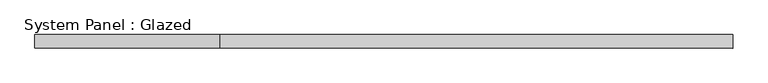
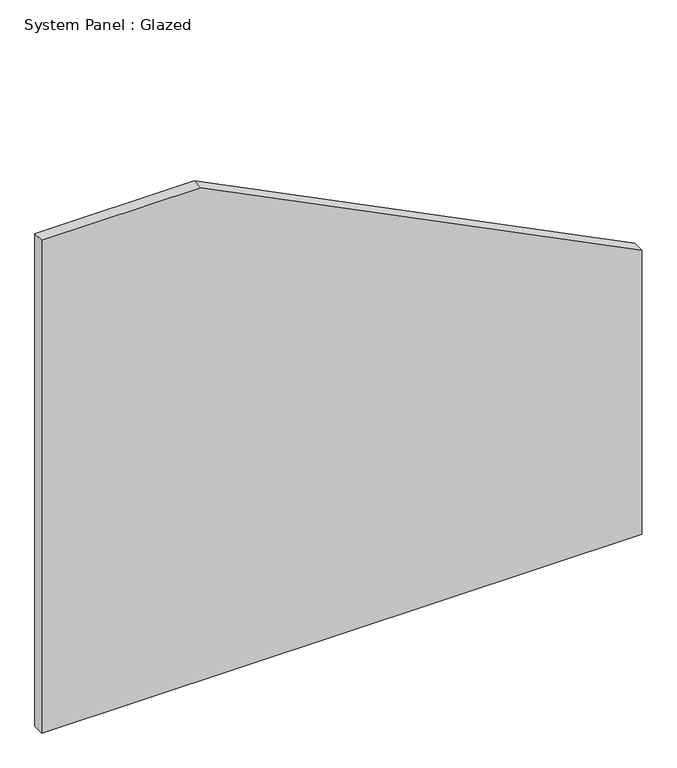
"""IFC4 building model written with IfcOpenShell, lengths in millimetres: plate geometry, System Panel : Glazed."""

import ifcopenshell
import ifcopenshell.guid

model = None  # the IFC model being written
_history = None  # IfcOwnerHistory: only IFC2X3 demands one
_inside = {}  # id of a spatial element -> (the spatial element, [elements in it])
_under = {}  # id of a project, library or spatial element -> (it, [spatial elements below it])
_declared = {}  # id of a project -> (the project, [libraries it declares])
_typed = {}  # id of a type object -> (the type object, [elements of that type])
_made_of = {}  # id of a material, layer set ... -> (it, [elements and type objects made of it])


def new_model(schema):
    """Start an empty IFC model of exactly this schema.

    Asked for "IFC4X3", IfcOpenShell would pick the latest addendum, in which some entities
    have other attributes; the version numbers below select the first issue.
    IFC2X3 requires an IfcOwnerHistory on every rooted entity: one is made here for all.
    """
    global model, _history
    if schema == "IFC4X3":
        model = ifcopenshell.file(schema_version=(4, 3, 0, 0))
    else:
        model = ifcopenshell.file(schema=schema)
    _inside.clear()
    _under.clear()
    _declared.clear()
    _typed.clear()
    _made_of.clear()
    _history = None
    if model.schema == "IFC2X3":
        org = make("IfcOrganization", Name="unknown")
        user = make(
            "IfcPersonAndOrganization",
            ThePerson=make("IfcPerson", FamilyName="unknown"),
            TheOrganization=org,
        )
        app = make(
            "IfcApplication",
            ApplicationDeveloper=org,
            Version="unknown",
            ApplicationFullName="unknown",
            ApplicationIdentifier="unknown",
        )
        _history = make(
            "IfcOwnerHistory",
            OwningUser=user,
            OwningApplication=app,
            ChangeAction="ADDED",
            CreationDate=0,
        )
    return model


def make(cls, **values):
    """One entity of the class cls with the attributes given. An attribute that is None is left unset."""
    return model.create_entity(
        cls, **{name: value for name, value in values.items() if value is not None}
    )


def rooted(cls, **values):
    """An entity with a GlobalId (a new one), such as an element, a storey or a relation."""
    return make(cls, GlobalId=ifcopenshell.guid.new(), OwnerHistory=_history, **values)


def si_unit(unit_type, name, prefix=None):
    """IfcSIUnit, for example si_unit("LENGTHUNIT", "METRE", prefix="MILLI")."""
    return make("IfcSIUnit", UnitType=unit_type, Prefix=prefix, Name=name)


def assignment(units):
    """IfcUnitAssignment: the units of a project."""
    return None if units is None else make("IfcUnitAssignment", Units=units)


def point(xyz):
    """IfcCartesianPoint."""
    return None if xyz is None else make("IfcCartesianPoint", Coordinates=xyz)


def direction(xyz):
    """IfcDirection."""
    return None if xyz is None else make("IfcDirection", DirectionRatios=xyz)


def frame(location, z_axis=None, x_axis=None):
    """IfcAxis2Placement3D, a coordinate frame: its origin and axes. An axis left out is left unset."""
    return make(
        "IfcAxis2Placement3D",
        Location=point(location),
        Axis=direction(z_axis),
        RefDirection=direction(x_axis),
    )


def origin():
    """The frame at (0, 0, 0) with its axes left unset."""
    return frame((0.0, 0.0, 0.0))


def place(relative_to, where):
    """IfcLocalPlacement: puts the frame where relative to a parent placement (None: the world)."""
    return make(
        "IfcLocalPlacement", PlacementRelTo=relative_to, RelativePlacement=where
    )


def context(
    kind, dimensions, precision=None, world=None, true_north=None, identifier=None
):
    """IfcGeometricRepresentationContext, for example the 3D "Model" context."""
    return make(
        "IfcGeometricRepresentationContext",
        ContextIdentifier=identifier,
        ContextType=kind,
        CoordinateSpaceDimension=dimensions,
        Precision=precision,
        WorldCoordinateSystem=world,
        TrueNorth=true_north,
    )


def project(units=None, contexts=None):
    """IfcProject with its units and contexts."""
    return rooted(
        "IfcProject",
        Name="project",
        RepresentationContexts=contexts,
        UnitsInContext=assignment(units),
    )


def spatial(cls, under=None, at=None, **own):
    """A site, building, storey or space (cls), placed at a placement, below another one or the project."""
    s = rooted(cls, ObjectPlacement=at, **own)
    if under is not None:
        _under.setdefault(under.id(), (under, []))[1].append(s)
    return s


def polyline(points):
    """IfcPolyline through the points."""
    return make("IfcPolyline", Points=[point(p) for p in points])


def outline(outer, holes=None, kind="AREA"):
    """IfcArbitraryClosedProfileDef: a profile drawn as a closed curve; with holes, ...WithVoids."""
    if holes is None:
        return make("IfcArbitraryClosedProfileDef", ProfileType=kind, OuterCurve=outer)
    return make(
        "IfcArbitraryProfileDefWithVoids",
        ProfileType=kind,
        OuterCurve=outer,
        InnerCurves=holes,
    )


def extrude(swept, where, along, depth):
    """IfcExtrudedAreaSolid: the profile swept, set in the frame where, extruded along a direction by depth."""
    return make(
        "IfcExtrudedAreaSolid",
        SweptArea=swept,
        Position=where,
        ExtrudedDirection=direction(along),
        Depth=depth,
    )


def shape(context_of_items, identifier, shape_type, items):
    """IfcShapeRepresentation: the items that make up one representation, for example the "Body"."""
    return make(
        "IfcShapeRepresentation",
        ContextOfItems=context_of_items,
        RepresentationIdentifier=identifier,
        RepresentationType=shape_type,
        Items=items,
    )


def source(mapping_origin, context_of_items, identifier, shape_type, items):
    """IfcRepresentationMap: a shape defined once, which mapped items show again and again."""
    return make(
        "IfcRepresentationMap",
        MappingOrigin=mapping_origin,
        MappedRepresentation=shape(context_of_items, identifier, shape_type, items),
    )


def transform(
    local_origin,
    x_axis=None,
    y_axis=None,
    z_axis=None,
    scale=None,
    scale2=None,
    scale3=None,
    uniform=True,
):
    """IfcCartesianTransformationOperator3D, or its non-uniform kind. x_axis, y_axis, z_axis: its Axis1, 2, 3."""
    if uniform:
        return make(
            "IfcCartesianTransformationOperator3D",
            Axis1=direction(x_axis),
            Axis2=direction(y_axis),
            LocalOrigin=point(local_origin),
            Scale=scale,
            Axis3=direction(z_axis),
        )
    return make(
        "IfcCartesianTransformationOperator3DnonUniform",
        Axis1=direction(x_axis),
        Axis2=direction(y_axis),
        LocalOrigin=point(local_origin),
        Scale=scale,
        Axis3=direction(z_axis),
        Scale2=scale2,
        Scale3=scale3,
    )


def mapped(mapping_source, mapping_target):
    """IfcMappedItem: shows the shape of a source again, moved by a transform."""
    return make(
        "IfcMappedItem", MappingSource=mapping_source, MappingTarget=mapping_target
    )


def made_of(thing, what):
    """Note that an element or type object is made of a material, layer set ...; save() writes the relation."""
    if what is not None:
        _made_of.setdefault(what.id(), (what, []))[1].append(thing)
    return thing


def element(
    cls,
    number,
    at=None,
    inside=None,
    cuts=None,
    type_object=None,
    material=None,
    context=None,
    identifier="Body",
    shape_type=None,
    held_by="IfcProductDefinitionShape",
    body=None,
    shapes=None,
    **own,
):
    """One element of the class cls, such as IfcWall. Its Tag is "e" and its number.

    at: its placement. inside: the storey or other place that contains it. cuts: it is an
    opening in that element (IfcRelVoidsElement). A single representation is given by context,
    identifier, shape_type and body (its items); several are given by shapes. held_by: the class
    of the entity that holds the representations. save() writes the other relations.
    """
    e = rooted(cls, Tag="e%d" % number, ObjectPlacement=at, **own)
    if body is not None:
        shapes = [shape(context, identifier, shape_type, body)]
    if shapes is not None:
        e.Representation = make(held_by, Representations=shapes)
    if inside is not None:
        _inside.setdefault(inside.id(), (inside, []))[1].append(e)
    if cuts is not None:
        rooted(
            "IfcRelVoidsElement", RelatingBuildingElement=cuts, RelatedOpeningElement=e
        )
    if type_object is not None:
        _typed.setdefault(type_object.id(), (type_object, []))[1].append(e)
    return made_of(e, material)


def aggregate(whole, parts):
    """IfcRelAggregates: a whole, such as a stair, and the parts it consists of."""
    return rooted("IfcRelAggregates", RelatingObject=whole, RelatedObjects=parts)


def save(model, path):
    """Write the relations noted so far, then the file.

    IfcRelAggregates (storeys below a building ...), IfcRelContainedInSpatialStructure (elements
    in a storey), IfcRelDefinesByType, IfcRelAssociatesMaterial and IfcRelDeclares: one each for
    every whole, place, type object, material and project.
    """
    for whole, parts in _under.values():
        aggregate(whole, parts)
    for where, things in _inside.values():
        rooted(
            "IfcRelContainedInSpatialStructure",
            RelatedElements=things,
            RelatingStructure=where,
        )
    for kind, things in _typed.values():
        rooted("IfcRelDefinesByType", RelatedObjects=things, RelatingType=kind)
    for what, things in _made_of.values():
        rooted("IfcRelAssociatesMaterial", RelatedObjects=things, RelatingMaterial=what)
    for by, libraries in _declared.values():
        rooted("IfcRelDeclares", RelatingContext=by, RelatedDefinitions=libraries)
    model.write(path)


def system_panel_glazed_b60e47ca(model_context):
    return source(origin(), model_context, "Body", "SweptSolid", [
        extrude(outline(polyline([(0.0, -654.05), (0.0, 654.05), (655.4192831, 654.05), (1135.95, -307.0114338), (1135.95, -654.05), (0.0, -654.05)])), frame((0.0, 19.05, 0.0), z_axis=(0.0, 1.0, 0.0), x_axis=(0.0, 0.0, 1.0)), (0.0, 0.0, 1.0), 25.4),
    ])


if __name__ == "__main__":
    model = new_model("IFC4")
    model_context = context("Model", 3, world=origin())
    ifc_project = project(units=[si_unit("LENGTHUNIT", "METRE", prefix="MILLI")], contexts=[model_context])
    site = spatial("IfcSite", under=ifc_project)
    building = spatial("IfcBuilding", under=site)
    placement = place(None, origin())
    system_panel_glazed_shape = system_panel_glazed_b60e47ca(model_context)
    element("IfcPlate", 1, ObjectType="System Panel : Glazed", at=placement, inside=building, context=model_context, shape_type="MappedRepresentation", body=[
        mapped(system_panel_glazed_shape, transform((0.0, 0.0, 0.0), x_axis=(1.0, 0.0, 0.0), y_axis=(0.0, 1.0, 0.0), z_axis=(0.0, 0.0, 1.0))),
    ])
    save(model, "model.ifc")
